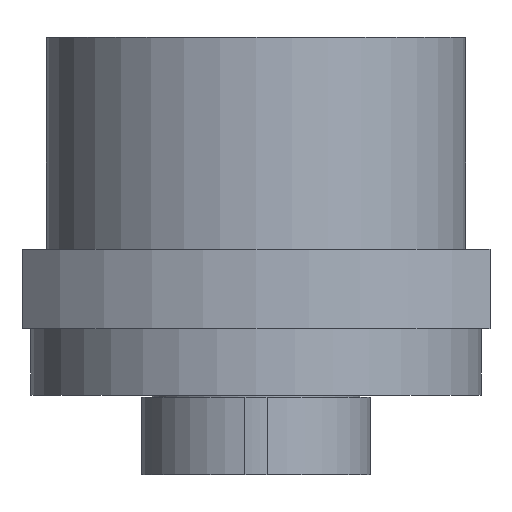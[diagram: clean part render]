
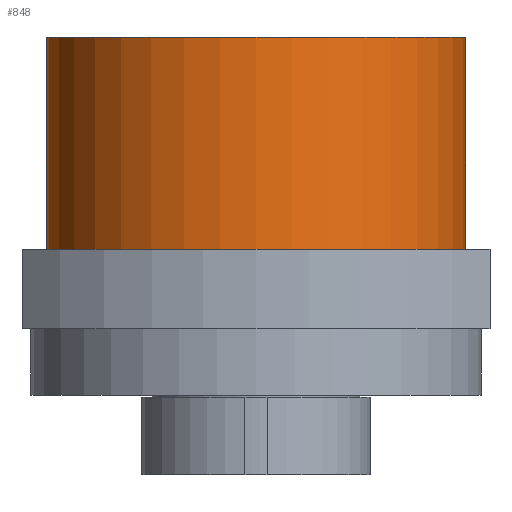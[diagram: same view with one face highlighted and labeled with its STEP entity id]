
A CAD part, front view. The second image highlights one B-rep face of the part: STEP entity #848.
In plain terms, the highlighted cylindrical face has radius 47.5 mm (diameter 95 mm), a full revolution.
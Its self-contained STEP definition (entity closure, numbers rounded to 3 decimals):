
#41=CYLINDRICAL_SURFACE($,#966,47.5);
#151=FACE_BOUND($,#312,.T.);
#219=FACE_OUTER_BOUND($,#311,.T.);
#311=EDGE_LOOP($,(#725));
#312=EDGE_LOOP($,(#726));
#398=CIRCLE($,#967,47.5);
#399=CIRCLE($,#968,47.5);
#474=VERTEX_POINT($,#1461);
#475=VERTEX_POINT($,#1463);
#566=EDGE_CURVE($,#474,#474,#398,.T.);
#567=EDGE_CURVE($,#475,#475,#399,.T.);
#725=ORIENTED_EDGE($,*,*,#566,.F.);
#726=ORIENTED_EDGE($,*,*,#567,.F.);
#848=ADVANCED_FACE($,(#219,#151),#41,.T.);
#966=AXIS2_PLACEMENT_3D($,#1460,#1220,#1221);
#967=AXIS2_PLACEMENT_3D($,#1462,#1222,#1223);
#968=AXIS2_PLACEMENT_3D($,#1464,#1224,#1225);
#1220=DIRECTION('center_axis',(0.,0.,1.));
#1221=DIRECTION('ref_axis',(-1.,0.,0.));
#1222=DIRECTION('center_axis',(0.,0.,1.));
#1223=DIRECTION('ref_axis',(-1.,0.,0.));
#1224=DIRECTION('center_axis',(0.,0.,-1.));
#1225=DIRECTION('ref_axis',(-1.,0.,0.));
#1460=CARTESIAN_POINT('Origin',(0.,0.,19.));
#1461=CARTESIAN_POINT('',(47.5,0.,67.));
#1462=CARTESIAN_POINT('Origin',(0.,0.,67.));
#1463=CARTESIAN_POINT('',(47.5,0.,19.));
#1464=CARTESIAN_POINT('Origin',(0.,0.,19.));
